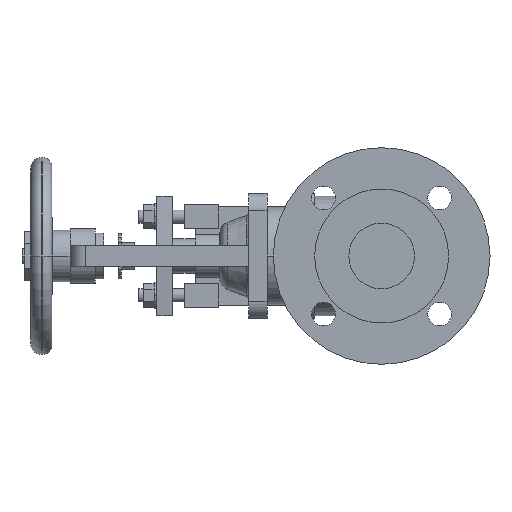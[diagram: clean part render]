
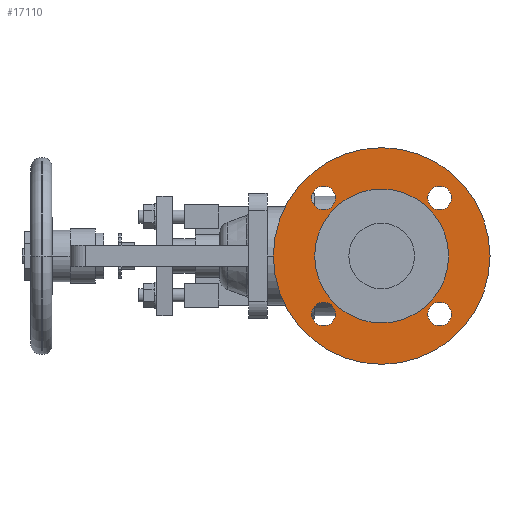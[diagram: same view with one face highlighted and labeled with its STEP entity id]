
A CAD part, left-side view. The second image highlights one B-rep face of the part: STEP entity #17110.
In plain terms, the highlighted planar face has unit normal (-1, 0, 0).
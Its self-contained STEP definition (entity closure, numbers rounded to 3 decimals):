
#8170=CARTESIAN_POINT('',(4.3,0.,-82.5));
#8180=VERTEX_POINT('',#8170);
#8340=CARTESIAN_POINT('',(4.3,0.,82.5));
#8350=VERTEX_POINT('',#8340);
#8380=CARTESIAN_POINT('',(4.3,0.,0.));
#8390=DIRECTION('',(1.,0.,0.));
#8400=DIRECTION('',(0.,0.,-1.));
#8410=AXIS2_PLACEMENT_3D('',#8380,#8390,#8400);
#8420=CIRCLE('',#8410,82.5);
#8430=EDGE_CURVE('',#8180,#8350,#8420,.T.);
#8660=CARTESIAN_POINT('',(4.3,44.194,-35.194));
#8670=VERTEX_POINT('',#8660);
#8700=CARTESIAN_POINT('',(4.3,44.194,-44.194));
#8710=DIRECTION('',(-1.,0.,0.));
#8720=DIRECTION('',(0.,0.,-1.));
#8730=AXIS2_PLACEMENT_3D('',#8700,#8710,#8720);
#8740=CIRCLE('',#8730,9.);
#8750=CARTESIAN_POINT('',(4.3,44.194,-53.194));
#8760=VERTEX_POINT('',#8750);
#8770=EDGE_CURVE('',#8760,#8670,#8740,.T.);
#9150=CARTESIAN_POINT('',(4.3,-44.194,-53.194));
#9160=VERTEX_POINT('',#9150);
#9320=CARTESIAN_POINT('',(4.3,-44.194,-35.194));
#9330=VERTEX_POINT('',#9320);
#9360=CARTESIAN_POINT('',(4.3,-44.194,-44.194));
#9370=DIRECTION('',(-1.,0.,0.));
#9380=DIRECTION('',(0.,0.,-1.));
#9390=AXIS2_PLACEMENT_3D('',#9360,#9370,#9380);
#9400=CIRCLE('',#9390,9.);
#9410=EDGE_CURVE('',#9160,#9330,#9400,.T.);
#9640=CARTESIAN_POINT('',(4.3,-44.194,53.194));
#9650=VERTEX_POINT('',#9640);
#9680=CARTESIAN_POINT('',(4.3,-44.194,44.194));
#9690=DIRECTION('',(-1.,0.,0.));
#9700=DIRECTION('',(0.,0.,-1.));
#9710=AXIS2_PLACEMENT_3D('',#9680,#9690,#9700);
#9720=CIRCLE('',#9710,9.);
#9730=CARTESIAN_POINT('',(4.3,-44.194,35.194));
#9740=VERTEX_POINT('',#9730);
#9750=EDGE_CURVE('',#9740,#9650,#9720,.T.);
#10130=CARTESIAN_POINT('',(4.3,44.194,53.194));
#10140=VERTEX_POINT('',#10130);
#10300=CARTESIAN_POINT('',(4.3,44.194,35.194));
#10310=VERTEX_POINT('',#10300);
#10340=CARTESIAN_POINT('',(4.3,44.194,44.194));
#10350=DIRECTION('',(-1.,0.,0.));
#10360=DIRECTION('',(0.,0.,-1.));
#10370=AXIS2_PLACEMENT_3D('',#10340,#10350,#10360);
#10380=CIRCLE('',#10370,9.);
#10390=EDGE_CURVE('',#10140,#10310,#10380,.T.);
#10620=CARTESIAN_POINT('',(4.3,51.,0.));
#10630=VERTEX_POINT('',#10620);
#10790=CARTESIAN_POINT('',(4.3,-51.,0.));
#10800=VERTEX_POINT('',#10790);
#10830=CARTESIAN_POINT('',(4.3,0.,0.));
#10840=DIRECTION('',(-1.,0.,0.));
#10850=DIRECTION('',(0.,1.,0.));
#10860=AXIS2_PLACEMENT_3D('',#10830,#10840,#10850);
#10870=CIRCLE('',#10860,51.);
#10880=EDGE_CURVE('',#10630,#10800,#10870,.T.);
#16760=CARTESIAN_POINT('',(4.3,66.75,0.));
#16770=DIRECTION('',(1.,0.,0.));
#16780=DIRECTION('',(0.,-1.,0.));
#16790=AXIS2_PLACEMENT_3D('',#16760,#16770,#16780);
#16800=PLANE('',#16790);
#16810=EDGE_CURVE('',#10800,#10630,#10870,.T.);
#16820=ORIENTED_EDGE('',*,*,#16810,.F.);
#16830=ORIENTED_EDGE('',*,*,#10880,.F.);
#16840=EDGE_LOOP('',(#16830,#16820));
#16850=FACE_BOUND('',#16840,.T.);
#16860=EDGE_CURVE('',#8350,#8180,#8420,.T.);
#16870=ORIENTED_EDGE('',*,*,#16860,.F.);
#16880=ORIENTED_EDGE('',*,*,#8430,.F.);
#16890=EDGE_LOOP('',(#16880,#16870));
#16900=FACE_OUTER_BOUND('',#16890,.T.);
#16910=EDGE_CURVE('',#8670,#8760,#8740,.T.);
#16920=ORIENTED_EDGE('',*,*,#16910,.F.);
#16930=ORIENTED_EDGE('',*,*,#8770,.F.);
#16940=EDGE_LOOP('',(#16930,#16920));
#16950=FACE_BOUND('',#16940,.T.);
#16960=EDGE_CURVE('',#9330,#9160,#9400,.T.);
#16970=ORIENTED_EDGE('',*,*,#16960,.F.);
#16980=ORIENTED_EDGE('',*,*,#9410,.F.);
#16990=EDGE_LOOP('',(#16980,#16970));
#17000=FACE_BOUND('',#16990,.T.);
#17010=ORIENTED_EDGE('',*,*,#9750,.F.);
#17020=EDGE_CURVE('',#9650,#9740,#9720,.T.);
#17030=ORIENTED_EDGE('',*,*,#17020,.F.);
#17040=EDGE_LOOP('',(#17030,#17010));
#17050=FACE_BOUND('',#17040,.T.);
#17060=EDGE_CURVE('',#10310,#10140,#10380,.T.);
#17070=ORIENTED_EDGE('',*,*,#17060,.F.);
#17080=ORIENTED_EDGE('',*,*,#10390,.F.);
#17090=EDGE_LOOP('',(#17080,#17070));
#17100=FACE_BOUND('',#17090,.T.);
#17110=ADVANCED_FACE('',(#16850,#16900,#16950,#17000,#17050,#17100),
#16800,.F.);
